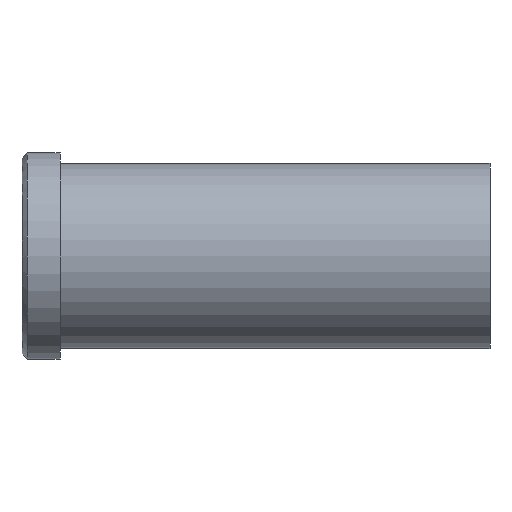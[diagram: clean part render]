
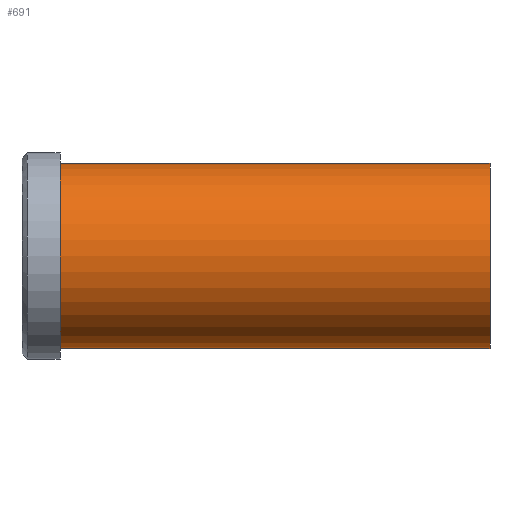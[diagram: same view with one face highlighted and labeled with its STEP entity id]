
A CAD part, front view. The second image highlights one B-rep face of the part: STEP entity #691.
In plain terms, the highlighted cylindrical face has radius 17 mm (diameter 34 mm), a partial arc.
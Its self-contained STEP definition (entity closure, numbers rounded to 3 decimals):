
#501=CARTESIAN_POINT('Vertex',(0.,0.,-17.)) ;
#506=CARTESIAN_POINT('Axis2P3D Location',(0.,0.,0.)) ;
#510=CARTESIAN_POINT('Vertex',(0.,-17.,0.)) ;
#513=CARTESIAN_POINT('Axis2P3D Location',(0.,0.,0.)) ;
#517=CARTESIAN_POINT('Vertex',(0.,0.,17.)) ;
#631=CARTESIAN_POINT('Line Origine',(79.,0.,17.)) ;
#635=CARTESIAN_POINT('Vertex',(79.,0.,17.)) ;
#649=CARTESIAN_POINT('Vertex',(79.,0.,-17.)) ;
#652=CARTESIAN_POINT('Line Origine',(79.,0.,-17.)) ;
#666=CARTESIAN_POINT('Axis2P3D Location',(79.,0.,0.)) ;
#671=CARTESIAN_POINT('Axis2P3D Location',(79.,0.,0.)) ;
#675=CARTESIAN_POINT('Vertex',(79.,-17.,0.)) ;
#678=CARTESIAN_POINT('Axis2P3D Location',(79.,0.,0.)) ;
#507=DIRECTION('Axis2P3D Direction',(1.,0.,-0.)) ;
#514=DIRECTION('Axis2P3D Direction',(1.,0.,-0.)) ;
#632=DIRECTION('Vector Direction',(-1.,0.,0.)) ;
#653=DIRECTION('Vector Direction',(-1.,0.,0.)) ;
#667=DIRECTION('Axis2P3D Direction',(-1.,-0.,-0.)) ;
#668=DIRECTION('Axis2P3D XDirection',(0.,0.,-1.)) ;
#672=DIRECTION('Axis2P3D Direction',(-1.,-0.,-0.)) ;
#679=DIRECTION('Axis2P3D Direction',(-1.,-0.,-0.)) ;
#508=AXIS2_PLACEMENT_3D('Circle Axis2P3D',#506,#507,$) ;
#515=AXIS2_PLACEMENT_3D('Circle Axis2P3D',#513,#514,$) ;
#669=AXIS2_PLACEMENT_3D('Cylinder Axis2P3D',#666,#667,#668) ;
#673=AXIS2_PLACEMENT_3D('Circle Axis2P3D',#671,#672,$) ;
#680=AXIS2_PLACEMENT_3D('Circle Axis2P3D',#678,#679,$) ;
#684=ORIENTED_EDGE('',*,*,#656,.T.) ;
#685=ORIENTED_EDGE('',*,*,#677,.F.) ;
#686=ORIENTED_EDGE('',*,*,#682,.F.) ;
#687=ORIENTED_EDGE('',*,*,#637,.T.) ;
#688=ORIENTED_EDGE('',*,*,#519,.T.) ;
#689=ORIENTED_EDGE('',*,*,#512,.T.) ;
#633=VECTOR('Line Direction',#632,1.) ;
#654=VECTOR('Line Direction',#653,1.) ;
#691=ADVANCED_FACE('353-25X86',(#690),#670,.T.) ;
#509=CIRCLE('generated circle',#508,17.) ;
#516=CIRCLE('generated circle',#515,17.) ;
#674=CIRCLE('generated circle',#673,17.) ;
#681=CIRCLE('generated circle',#680,17.) ;
#670=CYLINDRICAL_SURFACE('generated cylinder',#669,17.) ;
#512=EDGE_CURVE('',#511,#502,#509,.T.) ;
#519=EDGE_CURVE('',#518,#511,#516,.T.) ;
#637=EDGE_CURVE('',#636,#518,#634,.T.) ;
#656=EDGE_CURVE('',#502,#650,#655,.F.) ;
#677=EDGE_CURVE('',#676,#650,#674,.F.) ;
#682=EDGE_CURVE('',#636,#676,#681,.F.) ;
#683=EDGE_LOOP('',(#684,#685,#686,#687,#688,#689)) ;
#690=FACE_OUTER_BOUND('',#683,.T.) ;
#634=LINE('Line',#631,#633) ;
#655=LINE('Line',#652,#654) ;
#502=VERTEX_POINT('',#501) ;
#511=VERTEX_POINT('',#510) ;
#518=VERTEX_POINT('',#517) ;
#636=VERTEX_POINT('',#635) ;
#650=VERTEX_POINT('',#649) ;
#676=VERTEX_POINT('',#675) ;
